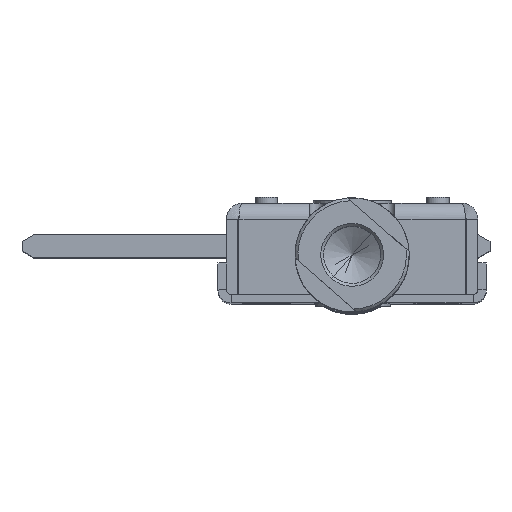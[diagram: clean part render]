
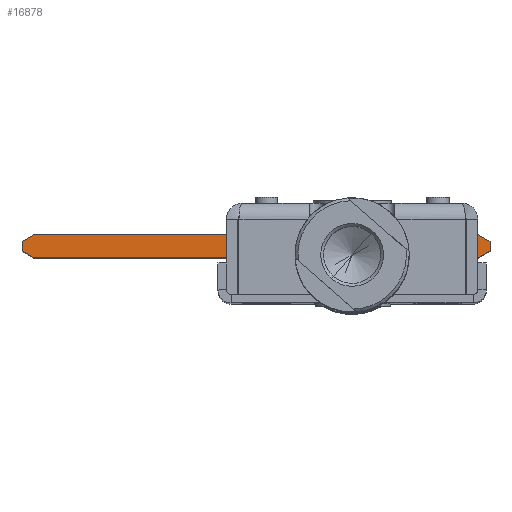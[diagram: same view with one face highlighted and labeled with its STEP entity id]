
A CAD part, top view. The second image highlights one B-rep face of the part: STEP entity #16878.
In plain terms, the highlighted planar face has unit normal (0, 0, 1) as drawn and (0, -1, 0) by its records, which use the part's own axes.
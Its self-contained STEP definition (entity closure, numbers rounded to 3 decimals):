
#2821 = PLANE ( 'NONE',  #9672 ) ;
#4231 = CARTESIAN_POINT ( 'NONE',  ( 0., 0., 1.169 ) ) ;
#4233 = VERTEX_POINT ( 'NONE', #8843 ) ;
#4576 = DIRECTION ( 'NONE',  ( 0., 0., 1. ) ) ;
#5586 = CARTESIAN_POINT ( 'NONE',  ( 2.025, 0., 0. ) ) ;
#5871 = VERTEX_POINT ( 'NONE', #4231 ) ;
#6977 = VERTEX_POINT ( 'NONE', #20652 ) ;
#7197 = VERTEX_POINT ( 'NONE', #19249 ) ;
#7406 = EDGE_CURVE ( 'NONE', #6977, #5871, #9011, .T. ) ;
#7465 = EDGE_CURVE ( 'NONE', #4233, #7197, #8483, .T. ) ;
#7567 = EDGE_CURVE ( 'NONE', #4233, #18165, #8166, .T. ) ;
#7570 = EDGE_CURVE ( 'NONE', #15168, #18165, #8190, .T. ) ;
#7598 = EDGE_CURVE ( 'NONE', #15168, #6977, #8033, .T. ) ;
#7603 = EDGE_CURVE ( 'NONE', #5871, #21276, #7985, .T. ) ;
#7637 = EDGE_CURVE ( 'NONE', #21276, #16046, #7964, .T. ) ;
#7674 = EDGE_CURVE ( 'NONE', #16046, #7197, #7762, .T. ) ;
#7762 = LINE ( 'NONE', #16075, #7832 ) ;
#7832 = VECTOR ( 'NONE', #16330, 1000. ) ;
#7923 = VECTOR ( 'NONE', #16376, 1000. ) ;
#7938 = VECTOR ( 'NONE', #16485, 1000. ) ;
#7964 = LINE ( 'NONE', #16532, #7923 ) ;
#7985 = LINE ( 'NONE', #16673, #7938 ) ;
#8006 = VECTOR ( 'NONE', #16564, 1000. ) ;
#8033 = LINE ( 'NONE', #16557, #8006 ) ;
#8148 = VECTOR ( 'NONE', #16837, 1000. ) ;
#8166 = LINE ( 'NONE', #17046, #8148 ) ;
#8190 = LINE ( 'NONE', #16961, #8372 ) ;
#8372 = VECTOR ( 'NONE', #16777, 1000. ) ;
#8444 = VECTOR ( 'NONE', #17286, 1000. ) ;
#8483 = LINE ( 'NONE', #17292, #8444 ) ;
#8843 = CARTESIAN_POINT ( 'NONE',  ( 82., 0., 2.845 ) ) ;
#8902 = VECTOR ( 'NONE', #17889, 1000. ) ;
#9011 = LINE ( 'NONE', #17986, #8902 ) ;
#9672 = AXIS2_PLACEMENT_3D ( 'NONE', #18968, #15308, #4576 ) ;
#12581 = CARTESIAN_POINT ( 'NONE',  ( 80., 0., 0. ) ) ;
#12682 = CARTESIAN_POINT ( 'NONE',  ( 2.046, 0., 4. ) ) ;
#15168 = VERTEX_POINT ( 'NONE', #12682 ) ;
#15308 = DIRECTION ( 'NONE',  ( 0., 1., 0. ) ) ;
#16046 = VERTEX_POINT ( 'NONE', #12581 ) ;
#16075 = CARTESIAN_POINT ( 'NONE',  ( 82., 0., 1.155 ) ) ;
#16330 = DIRECTION ( 'NONE',  ( 0.866, 0., 0.5 ) ) ;
#16376 = DIRECTION ( 'NONE',  ( 1., 0., 0. ) ) ;
#16485 = DIRECTION ( 'NONE',  ( 0.866, 0., -0.5 ) ) ;
#16532 = CARTESIAN_POINT ( 'NONE',  ( 0., 0., 0. ) ) ;
#16557 = CARTESIAN_POINT ( 'NONE',  ( 0.512, 0., 3.114 ) ) ;
#16564 = DIRECTION ( 'NONE',  ( -0.866, 0., -0.5 ) ) ;
#16673 = CARTESIAN_POINT ( 'NONE',  ( -1.226, 0., 1.877 ) ) ;
#16777 = DIRECTION ( 'NONE',  ( 1., 0., 0. ) ) ;
#16837 = DIRECTION ( 'NONE',  ( -0.866, 0., 0.5 ) ) ;
#16878 = ADVANCED_FACE ( 'NONE', ( #19774 ), #2821, .F. ) ;
#16961 = CARTESIAN_POINT ( 'NONE',  ( 0., 0., 4. ) ) ;
#17046 = CARTESIAN_POINT ( 'NONE',  ( 80., 0., 4. ) ) ;
#17286 = DIRECTION ( 'NONE',  ( 0., 0., -1. ) ) ;
#17292 = CARTESIAN_POINT ( 'NONE',  ( 82., 0., 4. ) ) ;
#17889 = DIRECTION ( 'NONE',  ( 0., 0., -1. ) ) ;
#17986 = CARTESIAN_POINT ( 'NONE',  ( 0., 0., 4. ) ) ;
#18165 = VERTEX_POINT ( 'NONE', #23245 ) ;
#18217 = ORIENTED_EDGE ( 'NONE', *, *, #7465, .F. ) ;
#18407 = ORIENTED_EDGE ( 'NONE', *, *, #7567, .T. ) ;
#18454 = ORIENTED_EDGE ( 'NONE', *, *, #7570, .F. ) ;
#18478 = ORIENTED_EDGE ( 'NONE', *, *, #7598, .T. ) ;
#18524 = ORIENTED_EDGE ( 'NONE', *, *, #7406, .T. ) ;
#18687 = ORIENTED_EDGE ( 'NONE', *, *, #7603, .T. ) ;
#18713 = ORIENTED_EDGE ( 'NONE', *, *, #7637, .T. ) ;
#18783 = ORIENTED_EDGE ( 'NONE', *, *, #7674, .T. ) ;
#18968 = CARTESIAN_POINT ( 'NONE',  ( 0., 0., 4. ) ) ;
#19249 = CARTESIAN_POINT ( 'NONE',  ( 82., 0., 1.155 ) ) ;
#19774 = FACE_OUTER_BOUND ( 'NONE', #21903, .T. ) ;
#20652 = CARTESIAN_POINT ( 'NONE',  ( 0., 0., 2.819 ) ) ;
#21276 = VERTEX_POINT ( 'NONE', #5586 ) ;
#21903 = EDGE_LOOP ( 'NONE', ( #18217, #18407, #18454, #18478, #18524, #18687, #18713, #18783 ) ) ;
#23245 = CARTESIAN_POINT ( 'NONE',  ( 80., 0., 4. ) ) ;
